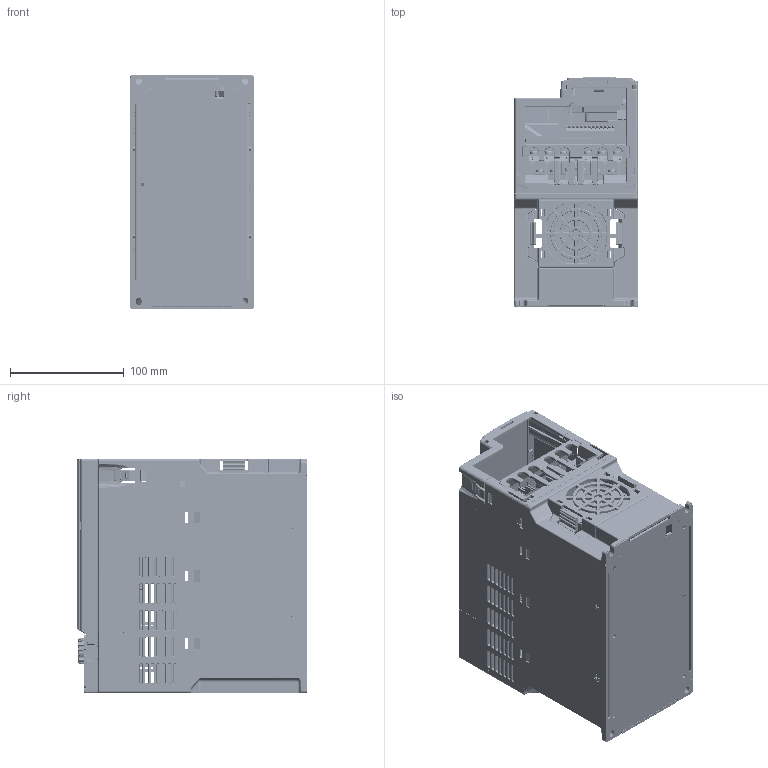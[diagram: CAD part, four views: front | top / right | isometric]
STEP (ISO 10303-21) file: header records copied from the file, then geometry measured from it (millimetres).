
FILE_DESCRIPTION((''),'2;1');
FILE_NAME('ASM0001_ASM_1_ASM','2023-12-27T15:32:10',('EDWARD.LIAO'),(''),'CREO PARAMETRIC BY PTC INC, 2022162','CREO PARAMETRIC BY PTC INC, 2022162','');
FILE_SCHEMA(('AUTOMOTIVE_DESIGN { 1 0 10303 214 1 1 1 1 }'));
Products named in the file (205): VFD-MH300-D2-PD-3D01_57_1; VFD-MH300-D2-PD-3D01_58_1; VFD-MH300-D2-PD-3D01_59_1; VFD-MH300-D2-PD-3D01_60_1; VFD-MH300-D2-PD-3D01_62_1; VFD-MH300-D2-PD-3D01_65_1; VFD-MH300-D2-PD-3D01_67_1; VFD-MH300-D2-PD-3D01_70_1; VFD-MH300-D2-PD-3D01_71_1; VFD-MH300-D2-PD-3D01_72_1; VFD-MH300-D2-PD-3D01_73_1; VFD-MH300-D2-PD-3D01_74_1; VFD-MH300-D2-PD-3D01_75_1; VFD-MH300-D2-PD-3D01_80_1; VFD-MH300-D2-PD-3D01_81_1; VFD-MH300-D2-PD-3D01_82_1; VFD-MH300-D2-PD-3D01_83_1; VFD-MH300-D2-PD-3D01_91_1; VFD-MH300-D2-PD-3D01_94_1; VFD-MH300-D2-PD-3D01_96_1; VFD-MH300-D2-PD-3D01_97_1; VFD-MH300-D2-PD-3D01_98_1; VFD-MH300-D2-PD-3D01_99_1; VFD-MH300-D2-PD-3D01_100_1; VFD-MH300-D2-PD-3D01_101_1; VFD-MH300-D2-PD-3D01_102_1; VFD-MH300-D2-PD-3D01_103_1; VFD-MH300-D2-PD-3D01_104_1; VFD-MH300-D2-PD-3D01_105_1; VFD-MH300-D2-PD-3D01_107_1; VFD-MH300-D2-PD-3D01_108_1; VFD-MH300-D2-PD-3D01_110_1; VFD-MH300-D2-PD-3D01_111_1; VFD-MH300-D2-PD-3D01_113_1; VFD-MH300-D2-PD-3D01_114_1; VFD-MH300-D2-PD-3D01_116_1; VFD-MH300-D2-PD-3D01_117_1; VFD-MH300-D2-PD-3D01_119_1; VFD-MH300-D2-PD-3D01_120_1; VFD-MH300-D2-PD-3D01_122_1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
Assembly tree (204 placements, depth 4):
  ASM0001_ASM_1_ASM
    VFD-MH300-D2-PD-3D01_57_1
    VFD-MH300-D2-PD-3D01_58_1
    VFD-MH300-D2-PD-3D01_59_1
    VFD-MH300-D2-PD-3D01_60_1
    VFD-MH300-D2-PD-3D01_62_1
    VFD-MH300-D2-PD-3D01_65_1
    VFD-MH300-D2-PD-3D01_67_1
    VFD-MH300-D2-PD-3D01_70_1
    VFD-MH300-D2-PD-3D01_71_1
    VFD-MH300-D2-PD-3D01_72_1
    VFD-MH300-D2-PD-3D01_73_1
    VFD-MH300-D2-PD-3D01_74_1
    VFD-MH300-D2-PD-3D01_75_1
    VFD-MH300-D2-PD-3D01_80_1
    VFD-MH300-D2-PD-3D01_81_1
    VFD-MH300-D2-PD-3D01_82_1
    VFD-MH300-D2-PD-3D01_83_1
    VFD-MH300-D2-PD-3D01_91_1
    VFD-MH300-D2-PD-3D01_94_1
    VFD-MH300-D2-PD-3D01_96_1
    VFD-MH300-D2-PD-3D01_97_1
    VFD-MH300-D2-PD-3D01_98_1
    VFD-MH300-D2-PD-3D01_99_1
    VFD-MH300-D2-PD-3D01_100_1
    VFD-MH300-D2-PD-3D01_101_1
    VFD-MH300-D2-PD-3D01_102_1
    VFD-MH300-D2-PD-3D01_103_1
    VFD-MH300-D2-PD-3D01_104_1
    VFD-MH300-D2-PD-3D01_105_1
    VFD-MH300-D2-PD-3D01_107_1
    VFD-MH300-D2-PD-3D01_108_1
    VFD-MH300-D2-PD-3D01_110_1
    VFD-MH300-D2-PD-3D01_111_1
    VFD-MH300-D2-PD-3D01_113_1
    VFD-MH300-D2-PD-3D01_114_1
    VFD-MH300-D2-PD-3D01_116_1
    VFD-MH300-D2-PD-3D01_117_1
    VFD-MH300-D2-PD-3D01_119_1
    VFD-MH300-D2-PD-3D01_120_1
    VFD-MH300-D2-PD-3D01_122_1
    VFD-MH300-D2-PD-3D01_123_1
    VFD-MH300-D2-PD-3D01_125_1
    VFD-MH300-D2-PD-3D01_126_1
    VFD-MH300-D2-PD-3D01_127_1
    VFD-MH300-D2-PD-3D01_129_1
    VFD-MH300-D2-PD-3D01_130_1
    VFD-MH300-D2-PD-3D01_131_1
    VFD-MH300-D2-PD-3D01_133_1
    VFD-MH300-D2-PD-3D01_134_1
    VFD-MH300-D2-PD-3D01_135_1
    VFD-MH300-D2-PD-3D01_137_1
    VFD-MH300-D2-PD-3D01_138_1
    VFD-MH300-D2-PD-3D01_139_1
    VFD-MH300-D2-PD-3D01_141_1
    VFD-MH300-D2-PD-3D01_142_1
    VFD-MH300-D2-PD-3D01_143_1
    VFD-MH300-D2-PD-3D01_145_1
    VFD-MH300-D2-PD-3D01_147_1
    CAD0000911738
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Bounding box: 109.6 x 202 x 207 mm (x, y, z)
Volume: 488104.9 mm3; surface area: 485204 mm2
Topology: 200 solids, 208 shells, 23693 faces, 65074 edges, 41538 vertices
Faces by surface type: plane 14104, cylinder 5600, cone 1401, bspline 974, torus 909, extrusion 604, sphere 99, revolution 2
Entity records: 999107 total; most frequent: CARTESIAN_POINT 218190, ORIENTED_EDGE 129211, DIRECTION 119616, EDGE_CURVE 64868, VECTOR 45887, LINE 45283, VERTEX_POINT 41498, PRESENTATION_STYLE_ASSIGNMENT 39135
